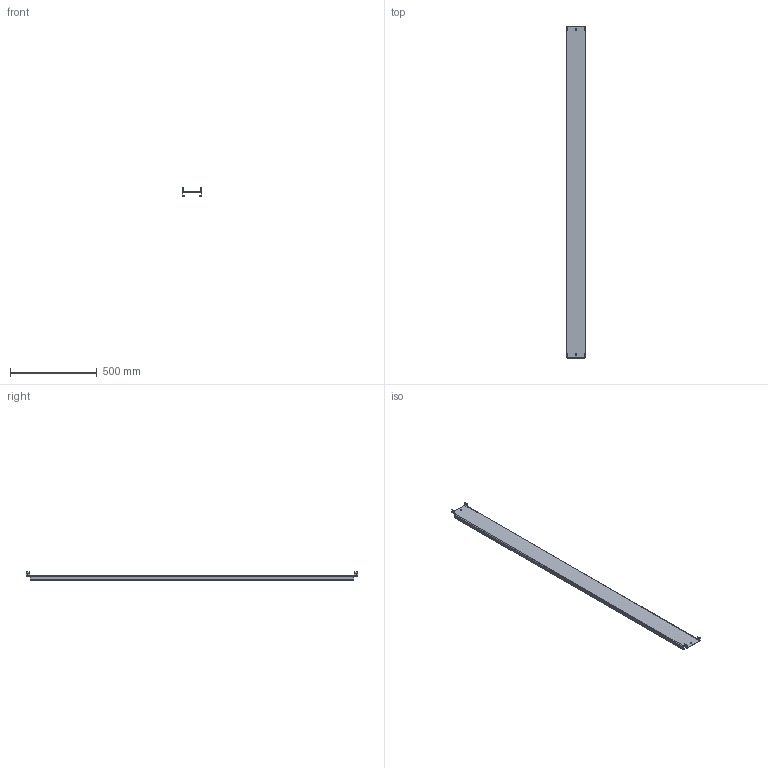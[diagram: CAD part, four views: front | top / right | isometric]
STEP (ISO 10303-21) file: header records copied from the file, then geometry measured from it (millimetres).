
FILE_DESCRIPTION (( 'STEP AP203' ), '1' );
FILE_NAME ('MP 200.11 Ïàíåëü ìîíòàæíàÿ ïðîìåæóòî÷íàÿ.STEP', '2012-11-26T12:35:31', ( 'system' ), ( '' ), 'SwSTEP 2.0', 'SolidWorks 2012', '' );
FILE_SCHEMA (( 'CONFIG_CONTROL_DESIGN' ));
Length unit declared in the file: millimetre
Products named in the file (1): MP 200.11 Ïàíåëü ìîíòàæíàÿ ïðîìåæóòî÷íàÿ
Bounding box: 114 x 1913 x 47 mm (x, y, z)
Volume: 817198 mm3; surface area: 664920.1 mm2
Topology: 1 solids, 1 shells, 92 faces, 238 edges, 148 vertices
Faces by surface type: plane 58, cylinder 34
Entity records: 2875 total; most frequent: DIRECTION 492, CARTESIAN_POINT 479, ORIENTED_EDGE 476, EDGE_CURVE 238, LINE 170, VECTOR 170, AXIS2_PLACEMENT_3D 161, VERTEX_POINT 148
